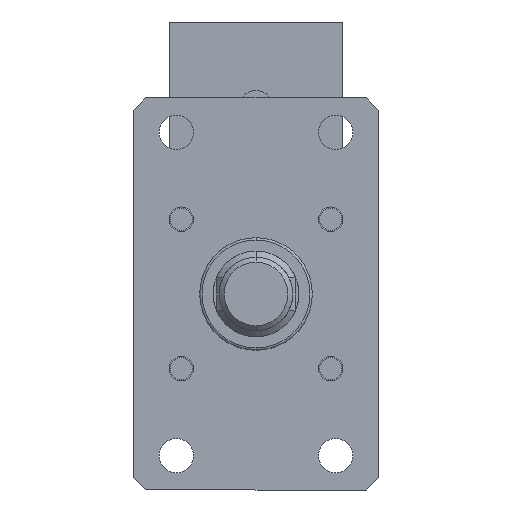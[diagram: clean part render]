
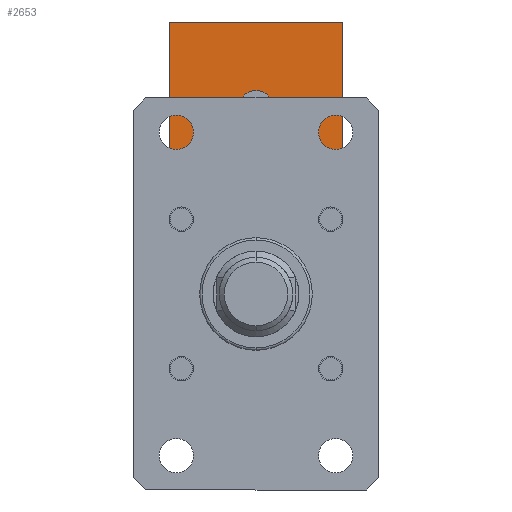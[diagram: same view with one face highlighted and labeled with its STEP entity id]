
A CAD part, front view. The second image highlights one B-rep face of the part: STEP entity #2653.
In plain terms, the highlighted planar face has unit normal (0, -1, 0).
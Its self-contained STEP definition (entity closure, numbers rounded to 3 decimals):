
#32 = EDGE_CURVE ( 'NONE', #5730, #6174, #4296, .T. ) ;
#404 = LINE ( 'NONE', #3866, #5904 ) ;
#525 = DIRECTION ( 'NONE',  ( 1., 0., 0. ) ) ;
#640 = CARTESIAN_POINT ( 'NONE',  ( 7.5, 110., 75.5 ) ) ;
#724 = LINE ( 'NONE', #5241, #4919 ) ;
#975 = LINE ( 'NONE', #3378, #2241 ) ;
#1384 = DIRECTION ( 'NONE',  ( 0., -1., 0. ) ) ;
#1548 = CARTESIAN_POINT ( 'NONE',  ( -7.5, 110., 75.5 ) ) ;
#1671 = VERTEX_POINT ( 'NONE', #5635 ) ;
#2076 = LINE ( 'NONE', #4358, #6311 ) ;
#2108 = DIRECTION ( 'NONE',  ( 0., -1., 0. ) ) ;
#2223 = DIRECTION ( 'NONE',  ( 1., 0., 0. ) ) ;
#2241 = VECTOR ( 'NONE', #6639, 1000. ) ;
#2639 = AXIS2_PLACEMENT_3D ( 'NONE', #4657, #1384, #5217 ) ;
#2653 = ADVANCED_FACE ( 'NONE', ( #7084, #3060 ), #6432, .F. ) ;
#2704 = ORIENTED_EDGE ( 'NONE', *, *, #32, .F. ) ;
#2748 = ORIENTED_EDGE ( 'NONE', *, *, #4433, .T. ) ;
#2802 = CARTESIAN_POINT ( 'NONE',  ( -35.5, 110., 40. ) ) ;
#2931 = EDGE_CURVE ( 'NONE', #1671, #6065, #404, .T. ) ;
#3060 = FACE_OUTER_BOUND ( 'NONE', #6726, .T. ) ;
#3128 = CARTESIAN_POINT ( 'NONE',  ( 35.5, 110., 111. ) ) ;
#3339 = EDGE_LOOP ( 'NONE', ( #2704, #6431 ) ) ;
#3378 = CARTESIAN_POINT ( 'NONE',  ( 35.5, 110., 111. ) ) ;
#3708 = DIRECTION ( 'NONE',  ( -1., 0., 0. ) ) ;
#3735 = VERTEX_POINT ( 'NONE', #2802 ) ;
#3866 = CARTESIAN_POINT ( 'NONE',  ( -35.5, 110., 111. ) ) ;
#4296 = CIRCLE ( 'NONE', #2639, 7.5 ) ;
#4358 = CARTESIAN_POINT ( 'NONE',  ( -35.5, 110., 40. ) ) ;
#4433 = EDGE_CURVE ( 'NONE', #1671, #3735, #724, .T. ) ;
#4521 = VERTEX_POINT ( 'NONE', #4729 ) ;
#4657 = CARTESIAN_POINT ( 'NONE',  ( 0., 110., 75.5 ) ) ;
#4715 = EDGE_CURVE ( 'NONE', #3735, #4521, #2076, .T. ) ;
#4729 = CARTESIAN_POINT ( 'NONE',  ( 35.5, 110., 40. ) ) ;
#4919 = VECTOR ( 'NONE', #5773, 1000. ) ;
#4954 = ORIENTED_EDGE ( 'NONE', *, *, #4715, .T. ) ;
#5191 = EDGE_CURVE ( 'NONE', #6065, #4521, #975, .T. ) ;
#5217 = DIRECTION ( 'NONE',  ( 1., 0., 0. ) ) ;
#5241 = CARTESIAN_POINT ( 'NONE',  ( -35.5, 110., 111. ) ) ;
#5406 = CARTESIAN_POINT ( 'NONE',  ( 0., 110., 75.5 ) ) ;
#5428 = ORIENTED_EDGE ( 'NONE', *, *, #5191, .F. ) ;
#5635 = CARTESIAN_POINT ( 'NONE',  ( -35.5, 110., 111. ) ) ;
#5674 = CIRCLE ( 'NONE', #6730, 7.5 ) ;
#5700 = ORIENTED_EDGE ( 'NONE', *, *, #2931, .F. ) ;
#5730 = VERTEX_POINT ( 'NONE', #640 ) ;
#5773 = DIRECTION ( 'NONE',  ( 0., 0., -1. ) ) ;
#5865 = AXIS2_PLACEMENT_3D ( 'NONE', #6453, #6989, #3708 ) ;
#5904 = VECTOR ( 'NONE', #2223, 1000. ) ;
#5970 = DIRECTION ( 'NONE',  ( 1., 0., 0. ) ) ;
#6065 = VERTEX_POINT ( 'NONE', #3128 ) ;
#6174 = VERTEX_POINT ( 'NONE', #1548 ) ;
#6199 = EDGE_CURVE ( 'NONE', #6174, #5730, #5674, .T. ) ;
#6311 = VECTOR ( 'NONE', #525, 1000. ) ;
#6431 = ORIENTED_EDGE ( 'NONE', *, *, #6199, .F. ) ;
#6432 = PLANE ( 'NONE',  #5865 ) ;
#6453 = CARTESIAN_POINT ( 'NONE',  ( -35.5, 110., 111. ) ) ;
#6639 = DIRECTION ( 'NONE',  ( 0., 0., -1. ) ) ;
#6726 = EDGE_LOOP ( 'NONE', ( #4954, #5428, #5700, #2748 ) ) ;
#6730 = AXIS2_PLACEMENT_3D ( 'NONE', #5406, #2108, #5970 ) ;
#6989 = DIRECTION ( 'NONE',  ( 0., 1., 0. ) ) ;
#7084 = FACE_BOUND ( 'NONE', #3339, .T. ) ;
